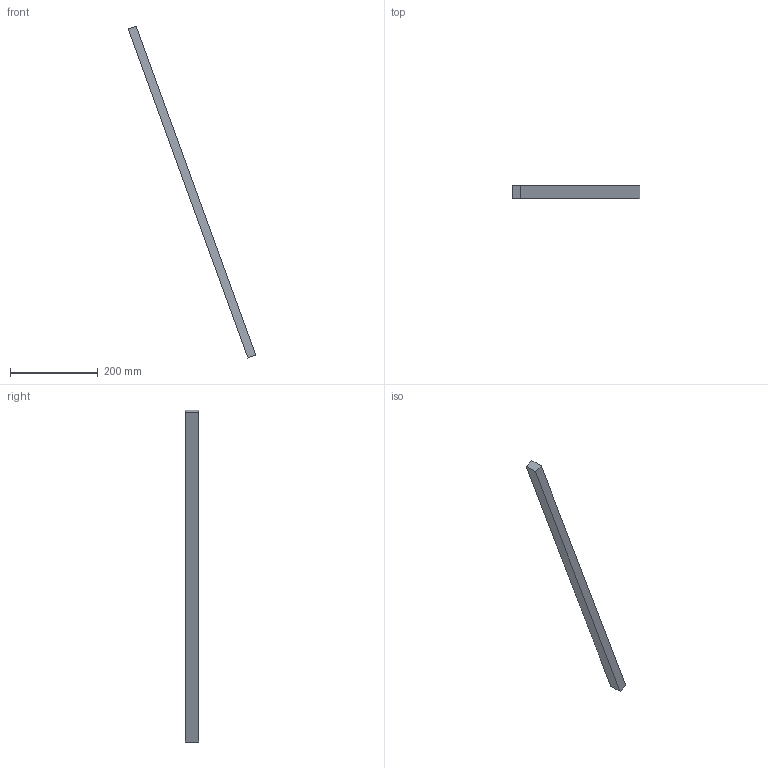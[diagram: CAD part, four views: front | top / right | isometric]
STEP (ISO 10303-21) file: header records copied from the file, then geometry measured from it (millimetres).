
FILE_DESCRIPTION(('FreeCAD Model'),'2;1');
FILE_NAME('Open CASCADE Shape Model','2026-09-10T18:49:29',('FreeCAD'),( 'FreeCAD'),'Open CASCADE STEP processor 7.8','FreeCAD','Unknown');
FILE_SCHEMA(('AUTOMOTIVE_DESIGN { 1 0 10303 214 1 1 1 1 }'));
Length unit declared in the file: millimetre
Products named in the file (1): Open CASCADE STEP translator 7.8 1
Bounding box: 292.41 x 30 x 758.59 mm (x, y, z)
Volume: 480000 mm3; surface area: 81200 mm2
Topology: 1 solids, 1 shells, 6 faces, 12 edges, 8 vertices
Faces by surface type: plane 6
Entity records: 166 total; most frequent: CARTESIAN_POINT 27, DIRECTION 26, ORIENTED_EDGE 24, EDGE_CURVE 12, LINE 12, VECTOR 12, VERTEX_POINT 8, AXIS2_PLACEMENT_3D 7
